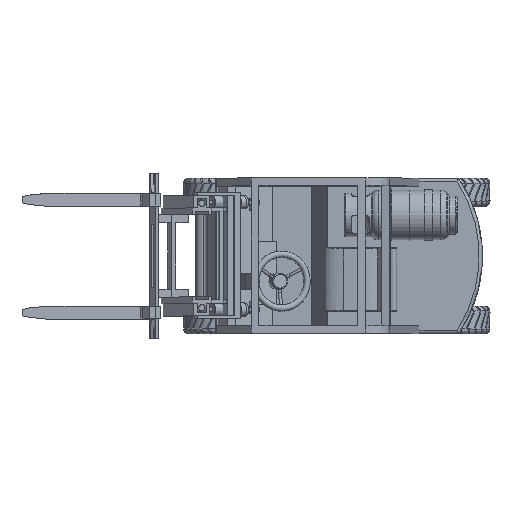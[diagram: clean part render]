
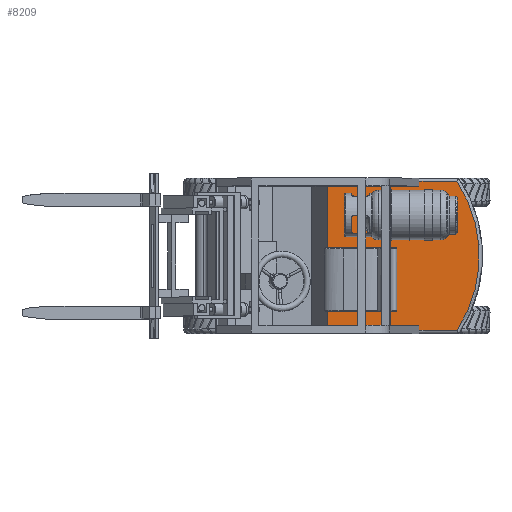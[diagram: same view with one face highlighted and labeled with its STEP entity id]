
A CAD part, top view. The second image highlights one B-rep face of the part: STEP entity #8209.
In plain terms, the highlighted planar face has unit normal (0, 0, 1).
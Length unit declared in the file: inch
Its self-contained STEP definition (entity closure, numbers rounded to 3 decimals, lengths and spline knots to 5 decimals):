
#8108=CARTESIAN_POINT('',(98.22944,43.10285,29.92126));
#8109=VERTEX_POINT('',#8108);
#8110=CARTESIAN_POINT('',(107.65054,43.10285,29.92126));
#8111=VERTEX_POINT('',#8110);
#8112=CARTESIAN_POINT('',(98.22944,43.10285,29.92126));
#8113=DIRECTION('',(1.0,0.0,0.0));
#8114=VECTOR('',#8113,9.4211);
#8115=LINE('',#8112,#8114);
#8116=EDGE_CURVE('',#8109,#8111,#8115,.T.);
#8146=CARTESIAN_POINT('',(87.89479,24.59892,29.92126));
#8147=DIRECTION('',(0.0,0.0,1.0));
#8148=DIRECTION('',(1.0,0.0,0.0));
#8149=AXIS2_PLACEMENT_3D('',#8146,#8147,#8148);
#8150=PLANE('',#8149);
#8151=CARTESIAN_POINT('',(107.65054,6.09498,29.92126));
#8152=VERTEX_POINT('',#8151);
#8153=CARTESIAN_POINT('',(98.22944,6.09498,29.92126));
#8154=VERTEX_POINT('',#8153);
#8155=CARTESIAN_POINT('',(107.65054,6.09498,29.92126));
#8156=DIRECTION('',(-1.0,0.0,0.0));
#8157=VECTOR('',#8156,9.4211);
#8158=LINE('',#8155,#8157);
#8159=EDGE_CURVE('',#8152,#8154,#8158,.T.);
#8160=ORIENTED_EDGE('',*,*,#8159,.F.);
#8161=CARTESIAN_POINT('',(79.51553,24.59892,29.92126));
#8162=DIRECTION('',(0.0,0.0,-1.0));
#8163=DIRECTION('',(1.0,0.0,0.0));
#8164=AXIS2_PLACEMENT_3D('',#8161,#8162,#8163);
#8165=CIRCLE('',#8164,33.67454);
#8166=EDGE_CURVE('',#8111,#8152,#8165,.T.);
#8167=ORIENTED_EDGE('',*,*,#8166,.F.);
#8168=ORIENTED_EDGE('',*,*,#8116,.F.);
#8169=CARTESIAN_POINT('',(98.22944,41.92175,29.92126));
#8170=VERTEX_POINT('',#8169);
#8171=CARTESIAN_POINT('',(98.22944,43.10285,29.92126));
#8172=DIRECTION('',(0.0,-1.0,0.0));
#8173=VECTOR('',#8172,1.1811);
#8174=LINE('',#8171,#8173);
#8175=EDGE_CURVE('',#8109,#8170,#8174,.T.);
#8176=ORIENTED_EDGE('',*,*,#8175,.T.);
#8177=CARTESIAN_POINT('',(75.59164,41.92175,29.92126));
#8178=VERTEX_POINT('',#8177);
#8179=CARTESIAN_POINT('',(98.22944,41.92175,29.92126));
#8180=DIRECTION('',(-1.0,0.0,0.0));
#8181=VECTOR('',#8180,22.6378);
#8182=LINE('',#8179,#8181);
#8183=EDGE_CURVE('',#8170,#8178,#8182,.T.);
#8184=ORIENTED_EDGE('',*,*,#8183,.T.);
#8185=CARTESIAN_POINT('',(75.59164,7.27608,29.92126));
#8186=VERTEX_POINT('',#8185);
#8187=CARTESIAN_POINT('',(75.59164,41.92175,29.92126));
#8188=DIRECTION('',(0.0,-1.0,0.0));
#8189=VECTOR('',#8188,34.64567);
#8190=LINE('',#8187,#8189);
#8191=EDGE_CURVE('',#8178,#8186,#8190,.T.);
#8192=ORIENTED_EDGE('',*,*,#8191,.T.);
#8193=CARTESIAN_POINT('',(98.22944,7.27608,29.92126));
#8194=VERTEX_POINT('',#8193);
#8195=CARTESIAN_POINT('',(75.59164,7.27608,29.92126));
#8196=DIRECTION('',(1.0,0.0,0.0));
#8197=VECTOR('',#8196,22.6378);
#8198=LINE('',#8195,#8197);
#8199=EDGE_CURVE('',#8186,#8194,#8198,.T.);
#8200=ORIENTED_EDGE('',*,*,#8199,.T.);
#8201=CARTESIAN_POINT('',(98.22944,7.27608,29.92126));
#8202=DIRECTION('',(0.0,-1.0,0.0));
#8203=VECTOR('',#8202,1.1811);
#8204=LINE('',#8201,#8203);
#8205=EDGE_CURVE('',#8194,#8154,#8204,.T.);
#8206=ORIENTED_EDGE('',*,*,#8205,.T.);
#8207=EDGE_LOOP('',(#8160,#8167,#8168,#8176,#8184,#8192,#8200,#8206));
#8208=FACE_OUTER_BOUND('',#8207,.T.);
#8209=ADVANCED_FACE('',(#8208),#8150,.T.);
